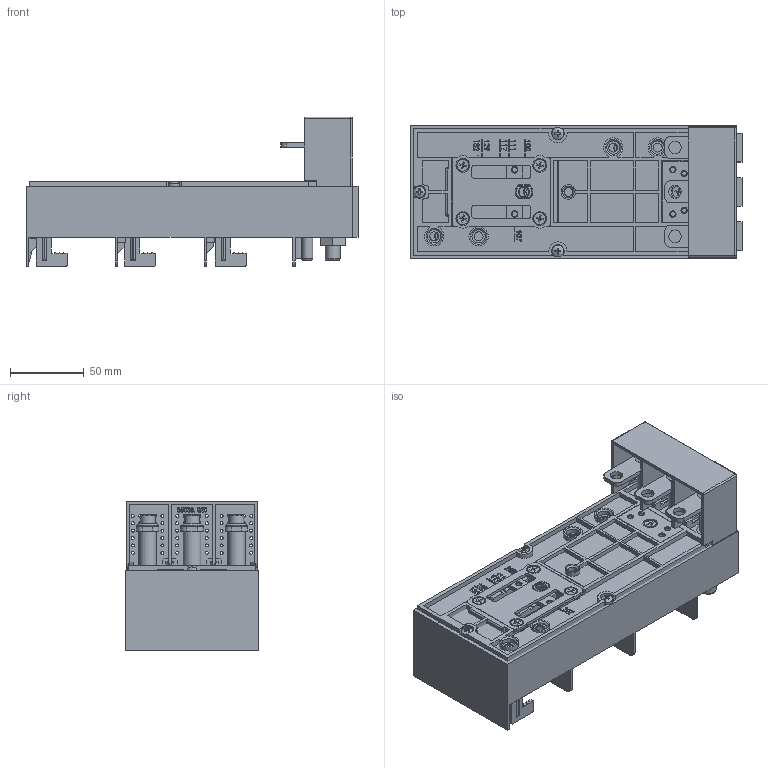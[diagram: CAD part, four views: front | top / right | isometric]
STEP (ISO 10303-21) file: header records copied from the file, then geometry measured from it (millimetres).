
FILE_DESCRIPTION (( 'STEP AP203' ), '1' );
FILE_NAME ('55064.STEP', '2021-08-23T02:36:47', ( '' ), ( '' ), 'SwSTEP 2.0', 'SolidWorks 2017', '' );
FILE_SCHEMA (( 'CONFIG_CONTROL_DESIGN' ));
Products named in the file (2): 55064
Bounding box: 224.5 x 90 x 101.3 mm (x, y, z)
Volume: 761199.3 mm3; surface area: 209951.3 mm2
Topology: 8 solids, 8 shells, 2386 faces, 6390 edges, 4167 vertices
Faces by surface type: plane 1573, cylinder 501, bspline 188, cone 97, torus 20, sphere 7
Full cylindrical faces by diameter (mm): 2 x90, 3.2 x6, 3.3 x2, 3.5 x2, 4 x10, 4.2 x3, 4.3 x4, 4.5 x1, 6 x8, 6.5 x1, 7 x3, 7.5 x1, 8 x12, 8.5 x3, 9 x9, 10 x7, 11 x4, 12 x3, 13 x1, 15 x3
Entity records: 95000 total; most frequent: CARTESIAN_POINT 36627, ORIENTED_EDGE 12144, DIRECTION 11133, EDGE_CURVE 6072, VECTOR 4489, LINE 4489, VERTEX_POINT 4118, AXIS2_PLACEMENT_3D 3322
